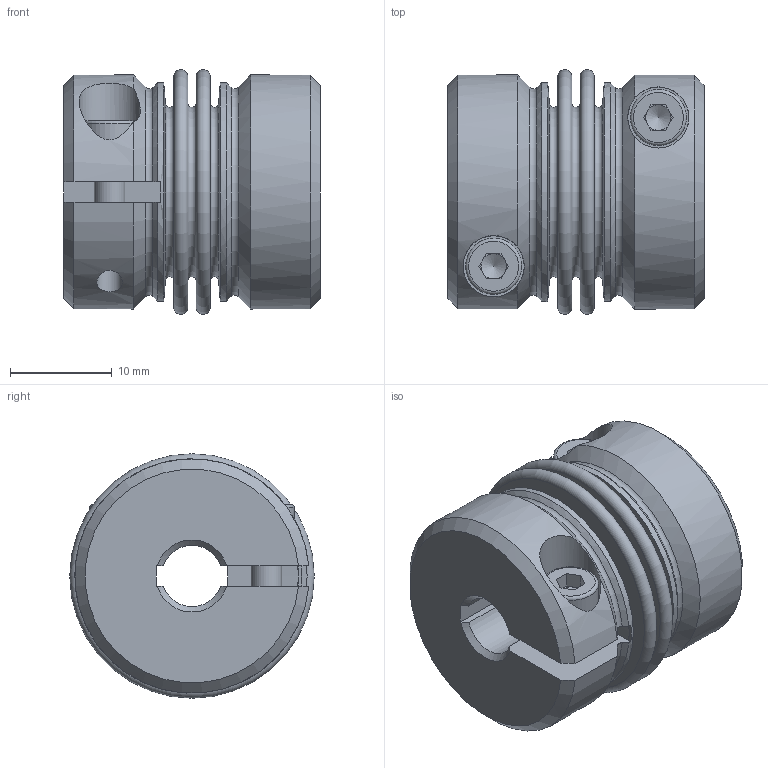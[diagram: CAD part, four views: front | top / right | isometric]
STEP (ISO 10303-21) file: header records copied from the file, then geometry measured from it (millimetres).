
FILE_DESCRIPTION( ( 'Unknown' ), '1' );
FILE_NAME( 'F:/JAKOB-STEP+IGES-Dateien/STEP-Dateien/KG-VA/KG-VA 4 - 2W.stp', 'Unknown', ( 'Unknown' ), ( 'Unknown' ), 'PSStep 10.1', 'Unknown', ' ' );
FILE_SCHEMA( ( 'AUTOMOTIVE_DESIGN { 1 0 10303 214 1 1 1 1 }' ) );
Length unit declared in the file: millimetre
Products named in the file (1): 28816945
Bounding box: 25.16 x 24 x 24 mm (x, y, z)
Volume: 6902.1 mm3; surface area: 6598.7 mm2
Topology: 1 solids, 1 shells, 110 faces, 265 edges, 169 vertices
Faces by surface type: plane 56, cone 20, cylinder 20, torus 14
Full cylindrical faces by diameter (mm): 2.5 x2, 3 x2, 3.4 x2, 5.5 x2, 6 x2, 20.9 x2, 21.5 x2
Entity records: 4084 total; most frequent: CARTESIAN_POINT 779, DIRECTION 518, ORIENTED_EDGE 440, EDGE_CURVE 220, AXIS2_PLACEMENT_3D 213, EDGE_LOOP 160, VERTEX_POINT 158, FACE_OUTER_BOUND 136
